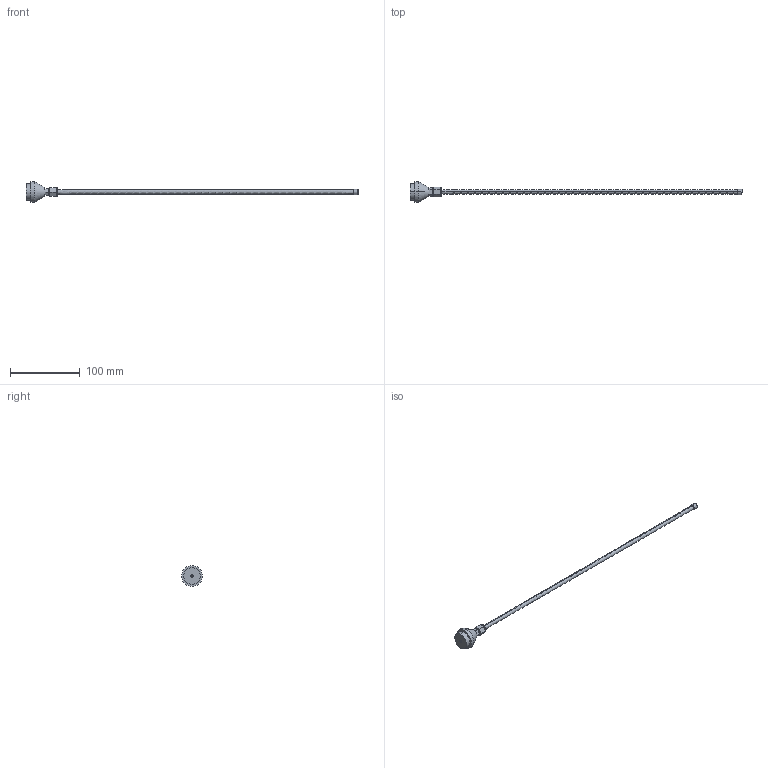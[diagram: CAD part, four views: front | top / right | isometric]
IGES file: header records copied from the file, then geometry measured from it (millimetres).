
Start section: SolidWorks IGES FILE using analytic representation for surfaces
Global section: file name: \\intra-srv04\開発データ\CAD_Data\CAD委員会\3D電子ｶﾀﾛｸﾞ\製品カタログ（新）\0_IGES\ER-AB40.IGS,41HSolidWorks 2004; native system: by SolidWorks Corporation; preprocessor: Version 5.3; author: mf1158; date: 050905.093449; units: millimetre
Bounding box: 475 x 30 x 30 mm (x, y, z)
Volume: 23000.6 mm3; surface area: 16534.4 mm2
Topology: 1 solids, 1 shells, 125 faces, 420 edges, 222 vertices
Faces by surface type: revolution 98, plane 27
